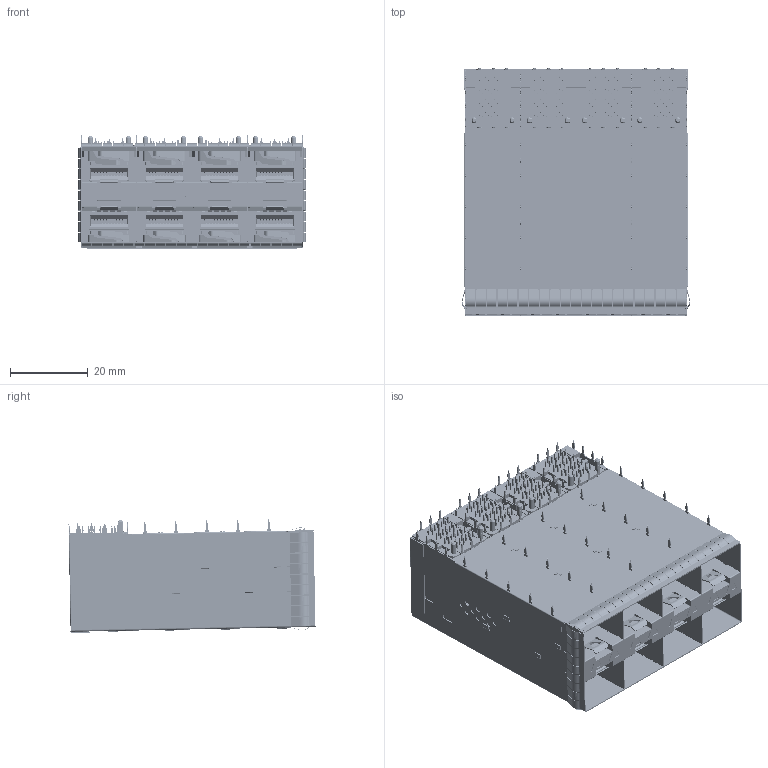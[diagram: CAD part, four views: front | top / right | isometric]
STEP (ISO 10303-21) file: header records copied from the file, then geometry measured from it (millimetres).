
FILE_DESCRIPTION((''),'2;1');
FILE_NAME('PRT0014','2016-08-25T',('Administrator'),(''),'PRO/ENGINEER BY PARAMETRIC TECHNOLOGY CORPORATION, 2009440','PRO/ENGINEER BY PARAMETRIC TECHNOLOGY CORPORATION, 2009440','');
FILE_SCHEMA(('CONFIG_CONTROL_DESIGN'));
Products named in the file (1): PRT0014
Bounding box: 58.81 x 63.74 x 29.41 mm (x, y, z)
Volume: 43196.4 mm3; surface area: 42302.7 mm2
Topology: 1 solids, 38 shells, 10172 faces, 28238 edges, 18382 vertices
Faces by surface type: plane 6236, cylinder 3796, bspline 120, cone 16, extrusion 4
Entity records: 333705 total; most frequent: CARTESIAN_POINT 67270, ORIENTED_EDGE 56476, DIRECTION 55433, EDGE_CURVE 28238, VECTOR 19183, LINE 19179, VERTEX_POINT 18382, AXIS2_PLACEMENT_3D 18125
